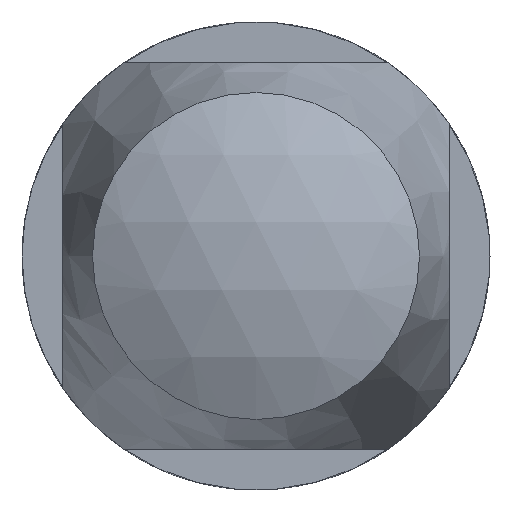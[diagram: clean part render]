
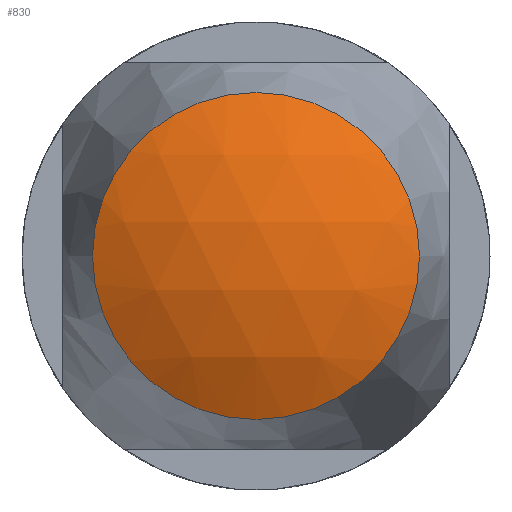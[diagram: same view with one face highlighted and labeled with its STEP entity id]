
A CAD part, front view. The second image highlights one B-rep face of the part: STEP entity #830.
In plain terms, the highlighted spherical face has radius 7.748 mm.
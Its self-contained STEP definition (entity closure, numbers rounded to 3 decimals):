
#19=SPHERICAL_SURFACE('',#917,7.748);
#274=FACE_OUTER_BOUND('',#341,.T.);
#341=EDGE_LOOP('',(#771));
#376=CIRCLE('',#918,3.807);
#453=VERTEX_POINT('',#1603);
#562=EDGE_CURVE('',#453,#453,#376,.T.);
#771=ORIENTED_EDGE('',*,*,#562,.F.);
#830=ADVANCED_FACE('',(#274),#19,.T.);
#917=AXIS2_PLACEMENT_3D('',#1602,#1145,#1146);
#918=AXIS2_PLACEMENT_3D('',#1604,#1147,#1148);
#1145=DIRECTION('center_axis',(0.,0.,1.));
#1146=DIRECTION('ref_axis',(1.,0.,0.));
#1147=DIRECTION('center_axis',(0.,1.,0.));
#1148=DIRECTION('ref_axis',(-1.,0.,0.));
#1602=CARTESIAN_POINT('Origin',(0.,-28.352,
0.));
#1603=CARTESIAN_POINT('',(-3.807,-35.1,0.));
#1604=CARTESIAN_POINT('Origin',(0.,-35.1,0.));
